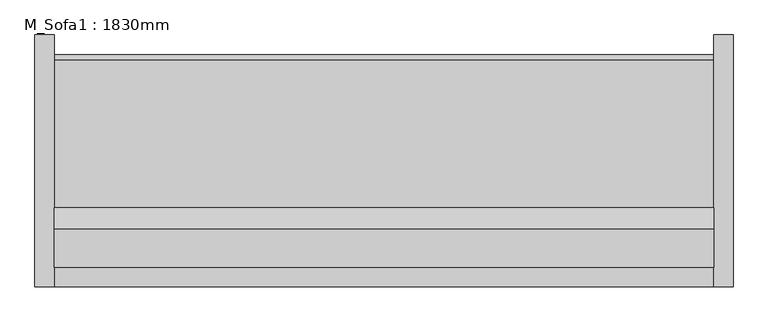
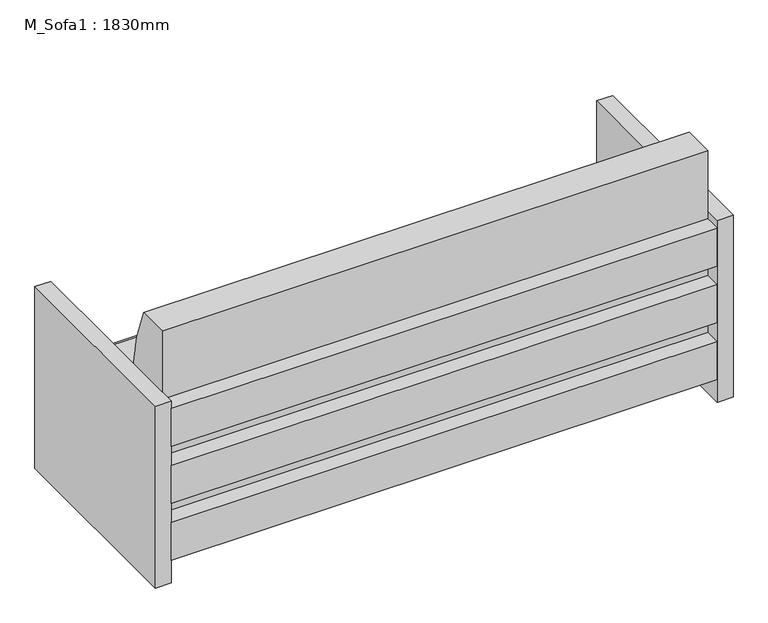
"""IFC4 building model written with IfcOpenShell, lengths in millimetres: furniture geometry, M_Sofa1 : 1830mm."""

from ifc_helpers import new_model, si_unit, point, frame, frame_2d, origin, origin_with_axes, place, context, project, spatial, polyline, circle_curve, trimmed, segment, composite_curve, outline, extrude, source, transform, mapped, element, save


def m_sofa1_1830mm_493d6964(model_context):
    return source(origin(), model_context, "Body", "SweptSolid", [
        extrude(outline(polyline([(-793.8295082, -425.5540984), (934.5704918, -425.5540984), (934.5704918, -476.3540984), (-793.8295082, -476.3540984), (-793.8295082, -425.5540984)])), frame((0.0, 0.0, 457.2), z_axis=(0.0, 0.0, 1.0), x_axis=(1.0, 0.0, 0.0)), (0.0, 0.0, 1.0), 127.0),
        extrude(outline(polyline([(-793.8295082, -425.5540984), (934.5704918, -425.5540984), (934.5704918, -476.3540984), (-793.8295082, -476.3540984), (-793.8295082, -425.5540984)])), frame((0.0, 0.0, 266.7), z_axis=(0.0, 0.0, 1.0), x_axis=(1.0, 0.0, 0.0)), (0.0, 0.0, 1.0), 127.0),
        extrude(outline(polyline([(-793.8295082, -425.5540984), (934.5704918, -425.5540984), (934.5704918, -476.3540984), (-793.8295082, -476.3540984), (-793.8295082, -425.5540984)])), frame((0.0, 0.0, 76.2), z_axis=(0.0, 0.0, 1.0), x_axis=(1.0, 0.0, 0.0)), (0.0, 0.0, 1.0), 127.0),
        extrude(outline(composite_curve([segment(polyline([(-286.1764935, 381.0), (119.3862837, 381.0)]), True, "CONTINUOUS"), segment(trimmed(circle_curve(frame_2d((119.3862837, 368.3)), 12.7), [point((119.3862837, 381.0))], [point((132.0379563, 367.1931221))], False, "CARTESIAN"), True, "CONTINUOUS"), segment(polyline([(132.0379563, 367.1931221), (111.108343, 127.9665467), (-425.5540984, 127.9665467), (-425.5540984, 812.8), (-323.9540984, 812.8)]), True, "CONTINUOUS"), segment(trimmed(circle_curve(frame_2d((-926.517198, 542.5300036)), 660.4), [point((-323.9540984, 812.8))], [point((-286.1764935, 381.0))], False, "CARTESIAN"), True, "CONTINUOUS")], self_intersect=False)), frame((-793.8295082, 0.0, 0.0), z_axis=(1.0, 0.0, 0.0), x_axis=(0.0, 1.0, 0.0)), (0.0, 0.0, 1.0), 1728.4),
        extrude(outline(polyline([(-793.8295082, -476.3540984), (-844.6295082, -476.3540984), (-844.6295082, 184.0459016), (-793.8295082, 184.0459016), (-793.8295082, -476.3540984)])), origin_with_axes(), (0.0, 0.0, 1.0), 609.6),
        extrude(outline(polyline([(985.3704918, -476.3540984), (934.5704918, -476.3540984), (934.5704918, 184.0459016), (985.3704918, 184.0459016), (985.3704918, -476.3540984)])), origin_with_axes(), (0.0, 0.0, 1.0), 609.6),
    ])


if __name__ == "__main__":
    model = new_model("IFC4")
    model_context = context("Model", 3, world=origin())
    ifc_project = project(units=[si_unit("LENGTHUNIT", "METRE", prefix="MILLI")], contexts=[model_context])
    site = spatial("IfcSite", under=ifc_project)
    building = spatial("IfcBuilding", under=site)
    placement = place(None, origin())
    m_sofa1_1830mm_shape = m_sofa1_1830mm_493d6964(model_context)
    element("IfcFurniture", 1, ObjectType="M_Sofa1 : 1830mm", at=placement, inside=building, context=model_context, shape_type="MappedRepresentation", body=[
        mapped(m_sofa1_1830mm_shape, transform((0.0, 0.0, 0.0), x_axis=(1.0, 0.0, 0.0), y_axis=(0.0, 1.0, 0.0), z_axis=(0.0, 0.0, 1.0))),
    ])
    save(model, "model.ifc")
